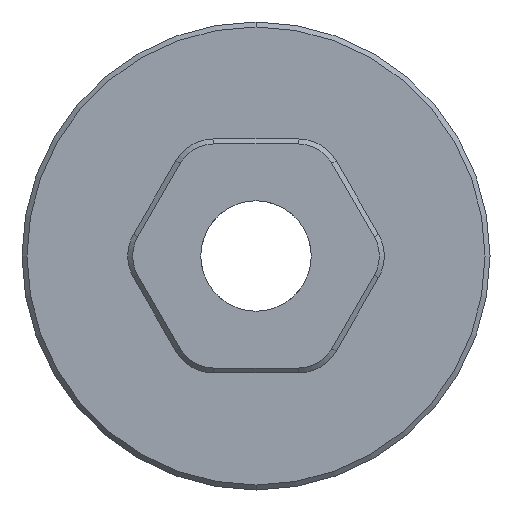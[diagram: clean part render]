
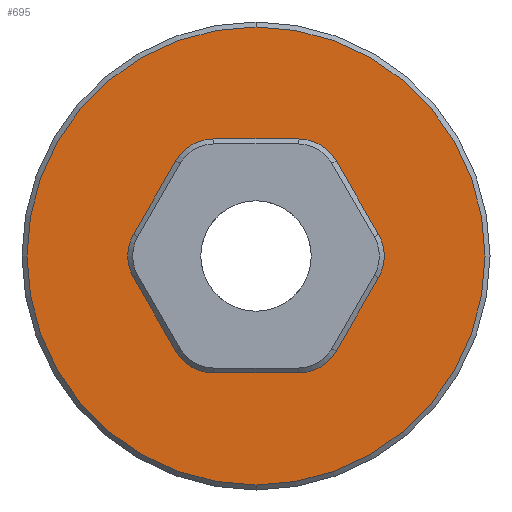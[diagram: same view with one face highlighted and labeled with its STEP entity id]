
A CAD part, front view. The second image highlights one B-rep face of the part: STEP entity #695.
In plain terms, the highlighted planar face has unit normal (0, -1, 0).
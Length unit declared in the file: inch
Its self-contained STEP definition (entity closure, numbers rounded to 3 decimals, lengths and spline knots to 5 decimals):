
#21 = VERTEX_POINT ( 'NONE', #2372 ) ;
#43 = EDGE_LOOP ( 'NONE', ( #3285, #1751 ) ) ;
#72 = VERTEX_POINT ( 'NONE', #2875 ) ;
#127 = CARTESIAN_POINT ( 'NONE',  ( -0.1963, 0., 0.035 ) ) ;
#128 = DIRECTION ( 'NONE',  ( 0., -1., 0. ) ) ;
#155 = EDGE_CURVE ( 'NONE', #72, #884, #1035, .T. ) ;
#170 = ORIENTED_EDGE ( 'NONE', *, *, #2082, .T. ) ;
#195 = VERTEX_POINT ( 'NONE', #1803 ) ;
#221 = DIRECTION ( 'NONE',  ( 0., 0., 1. ) ) ;
#224 = CIRCLE ( 'NONE', #1094, 0.07 ) ;
#271 = CARTESIAN_POINT ( 'NONE',  ( 0.1963, 0., -0.035 ) ) ;
#306 = CARTESIAN_POINT ( 'NONE',  ( -0.21651, 0., 0. ) ) ;
#343 = VERTEX_POINT ( 'NONE', #1946 ) ;
#381 = EDGE_CURVE ( 'NONE', #1011, #2108, #2062, .T. ) ;
#419 = CARTESIAN_POINT ( 'NONE',  ( -0.12846, 0., -0.1525 ) ) ;
#436 = VECTOR ( 'NONE', #1885, 39.37008 ) ;
#445 = CARTESIAN_POINT ( 'NONE',  ( -0.06784, 0., 0.1175 ) ) ;
#503 = ORIENTED_EDGE ( 'NONE', *, *, #1388, .F. ) ;
#556 = VERTEX_POINT ( 'NONE', #2723 ) ;
#575 = ORIENTED_EDGE ( 'NONE', *, *, #1848, .F. ) ;
#593 = DIRECTION ( 'NONE',  ( -1., 0., 0. ) ) ;
#627 = DIRECTION ( 'NONE',  ( 0., 1., 0. ) ) ;
#695 = ADVANCED_FACE ( 'NONE', ( #1276, #1784 ), #1484, .F. ) ;
#740 = VECTOR ( 'NONE', #1869, 39.37008 ) ;
#756 = EDGE_CURVE ( 'NONE', #1011, #1824, #1756, .T. ) ;
#837 = EDGE_CURVE ( 'NONE', #21, #3034, #2107, .T. ) ;
#864 = ORIENTED_EDGE ( 'NONE', *, *, #837, .F. ) ;
#878 = DIRECTION ( 'NONE',  ( 0., 1., 0. ) ) ;
#884 = VERTEX_POINT ( 'NONE', #2879 ) ;
#965 = DIRECTION ( 'NONE',  ( 0., 0., 1. ) ) ;
#970 = DIRECTION ( 'NONE',  ( 0., 0., 1. ) ) ;
#1005 = VERTEX_POINT ( 'NONE', #127 ) ;
#1011 = VERTEX_POINT ( 'NONE', #1162 ) ;
#1035 = CIRCLE ( 'NONE', #2499, 0.367 ) ;
#1036 = CARTESIAN_POINT ( 'NONE',  ( 0.06784, 0., 0.1875 ) ) ;
#1062 = VECTOR ( 'NONE', #1574, 39.37008 ) ;
#1063 = ORIENTED_EDGE ( 'NONE', *, *, #3329, .T. ) ;
#1094 = AXIS2_PLACEMENT_3D ( 'NONE', #445, #2509, #965 ) ;
#1128 = DIRECTION ( 'NONE',  ( 0., 0., 1. ) ) ;
#1138 = AXIS2_PLACEMENT_3D ( 'NONE', #1208, #2500, #970 ) ;
#1148 = EDGE_CURVE ( 'NONE', #343, #1312, #1209, .T. ) ;
#1162 = CARTESIAN_POINT ( 'NONE',  ( -0.06784, 0., -0.1875 ) ) ;
#1182 = CARTESIAN_POINT ( 'NONE',  ( 0.13568, 0., 0. ) ) ;
#1208 = CARTESIAN_POINT ( 'NONE',  ( 0., 0., 0. ) ) ;
#1209 = LINE ( 'NONE', #2501, #2354 ) ;
#1232 = DIRECTION ( 'NONE',  ( 0., 1., 0. ) ) ;
#1251 = ORIENTED_EDGE ( 'NONE', *, *, #381, .T. ) ;
#1276 = FACE_BOUND ( 'NONE', #2841, .T. ) ;
#1297 = CARTESIAN_POINT ( 'NONE',  ( 0.10825, 0., 0.1875 ) ) ;
#1302 = AXIS2_PLACEMENT_3D ( 'NONE', #3297, #2570, #1855 ) ;
#1312 = VERTEX_POINT ( 'NONE', #271 ) ;
#1340 = AXIS2_PLACEMENT_3D ( 'NONE', #1511, #1718, #221 ) ;
#1345 = VERTEX_POINT ( 'NONE', #1036 ) ;
#1388 = EDGE_CURVE ( 'NONE', #195, #2108, #3096, .T. ) ;
#1422 = CIRCLE ( 'NONE', #1578, 0.07 ) ;
#1460 = DIRECTION ( 'NONE',  ( 0., 1., 0. ) ) ;
#1484 = PLANE ( 'NONE',  #2147 ) ;
#1511 = CARTESIAN_POINT ( 'NONE',  ( 0.06784, 0., 0.1175 ) ) ;
#1555 = ORIENTED_EDGE ( 'NONE', *, *, #1148, .F. ) ;
#1574 = DIRECTION ( 'NONE',  ( 0.5, 0., -0.866 ) ) ;
#1578 = AXIS2_PLACEMENT_3D ( 'NONE', #1182, #878, #1915 ) ;
#1582 = EDGE_CURVE ( 'NONE', #21, #1312, #1422, .T. ) ;
#1590 = CIRCLE ( 'NONE', #2943, 0.07 ) ;
#1621 = CARTESIAN_POINT ( 'NONE',  ( -0.06784, 0., -0.1175 ) ) ;
#1673 = DIRECTION ( 'NONE',  ( 0., 0., 1. ) ) ;
#1717 = CARTESIAN_POINT ( 'NONE',  ( 0.06784, 0., -0.1175 ) ) ;
#1718 = DIRECTION ( 'NONE',  ( 0., 1., 0. ) ) ;
#1750 = DIRECTION ( 'NONE',  ( 0.5, 0., 0.866 ) ) ;
#1751 = ORIENTED_EDGE ( 'NONE', *, *, #155, .T. ) ;
#1754 = AXIS2_PLACEMENT_3D ( 'NONE', #1621, #627, #1128 ) ;
#1756 = LINE ( 'NONE', #2039, #3164 ) ;
#1784 = FACE_OUTER_BOUND ( 'NONE', #43, .T. ) ;
#1803 = CARTESIAN_POINT ( 'NONE',  ( -0.1963, 0., -0.035 ) ) ;
#1824 = VERTEX_POINT ( 'NONE', #2157 ) ;
#1848 = EDGE_CURVE ( 'NONE', #556, #1005, #3207, .T. ) ;
#1855 = DIRECTION ( 'NONE',  ( 0., 0., 1. ) ) ;
#1858 = LINE ( 'NONE', #1297, #2555 ) ;
#1869 = DIRECTION ( 'NONE',  ( -0.5, 0., 0.866 ) ) ;
#1885 = DIRECTION ( 'NONE',  ( -0.5, 0., -0.866 ) ) ;
#1915 = DIRECTION ( 'NONE',  ( 0., 0., 1. ) ) ;
#1946 = CARTESIAN_POINT ( 'NONE',  ( 0.12846, 0., -0.1525 ) ) ;
#1984 = CARTESIAN_POINT ( 'NONE',  ( -0.06784, 0., 0.1875 ) ) ;
#2039 = CARTESIAN_POINT ( 'NONE',  ( -0.10825, 0., -0.1875 ) ) ;
#2054 = EDGE_CURVE ( 'NONE', #884, #72, #2589, .T. ) ;
#2062 = CIRCLE ( 'NONE', #1754, 0.07 ) ;
#2065 = CIRCLE ( 'NONE', #1302, 0.07 ) ;
#2082 = EDGE_CURVE ( 'NONE', #1345, #3034, #3028, .T. ) ;
#2107 = LINE ( 'NONE', #2343, #740 ) ;
#2108 = VERTEX_POINT ( 'NONE', #419 ) ;
#2147 = AXIS2_PLACEMENT_3D ( 'NONE', #2534, #1232, #3342 ) ;
#2157 = CARTESIAN_POINT ( 'NONE',  ( 0.06784, 0., -0.1875 ) ) ;
#2310 = ORIENTED_EDGE ( 'NONE', *, *, #1582, .T. ) ;
#2343 = CARTESIAN_POINT ( 'NONE',  ( 0.21651, 0., 0. ) ) ;
#2349 = EDGE_CURVE ( 'NONE', #1345, #3290, #1858, .T. ) ;
#2354 = VECTOR ( 'NONE', #1750, 39.37008 ) ;
#2372 = CARTESIAN_POINT ( 'NONE',  ( 0.1963, 0., 0.035 ) ) ;
#2466 = CARTESIAN_POINT ( 'NONE',  ( -0.10825, 0., 0.1875 ) ) ;
#2499 = AXIS2_PLACEMENT_3D ( 'NONE', #3189, #128, #1673 ) ;
#2500 = DIRECTION ( 'NONE',  ( 0., -1., 0. ) ) ;
#2501 = CARTESIAN_POINT ( 'NONE',  ( 0.10825, 0., -0.1875 ) ) ;
#2509 = DIRECTION ( 'NONE',  ( 0., 1., 0. ) ) ;
#2511 = DIRECTION ( 'NONE',  ( 0., 0., 1. ) ) ;
#2534 = CARTESIAN_POINT ( 'NONE',  ( 0., 0., 0. ) ) ;
#2539 = EDGE_CURVE ( 'NONE', #556, #3290, #224, .T. ) ;
#2550 = ORIENTED_EDGE ( 'NONE', *, *, #2552, .T. ) ;
#2552 = EDGE_CURVE ( 'NONE', #195, #1005, #2065, .T. ) ;
#2555 = VECTOR ( 'NONE', #593, 39.37008 ) ;
#2570 = DIRECTION ( 'NONE',  ( 0., 1., 0. ) ) ;
#2589 = CIRCLE ( 'NONE', #1138, 0.367 ) ;
#2723 = CARTESIAN_POINT ( 'NONE',  ( -0.12846, 0., 0.1525 ) ) ;
#2799 = DIRECTION ( 'NONE',  ( 1., 0., 0. ) ) ;
#2821 = ORIENTED_EDGE ( 'NONE', *, *, #2539, .T. ) ;
#2824 = CARTESIAN_POINT ( 'NONE',  ( 0.12846, 0., 0.1525 ) ) ;
#2841 = EDGE_LOOP ( 'NONE', ( #3043, #1251, #503, #2550, #575, #2821, #3080, #170, #864, #2310, #1555, #1063 ) ) ;
#2875 = CARTESIAN_POINT ( 'NONE',  ( 0., 0., -0.367 ) ) ;
#2879 = CARTESIAN_POINT ( 'NONE',  ( 0., 0., 0.367 ) ) ;
#2943 = AXIS2_PLACEMENT_3D ( 'NONE', #1717, #1460, #2511 ) ;
#3028 = CIRCLE ( 'NONE', #1340, 0.07 ) ;
#3034 = VERTEX_POINT ( 'NONE', #2824 ) ;
#3043 = ORIENTED_EDGE ( 'NONE', *, *, #756, .F. ) ;
#3080 = ORIENTED_EDGE ( 'NONE', *, *, #2349, .F. ) ;
#3096 = LINE ( 'NONE', #306, #1062 ) ;
#3164 = VECTOR ( 'NONE', #2799, 39.37008 ) ;
#3189 = CARTESIAN_POINT ( 'NONE',  ( 0., 0., 0. ) ) ;
#3207 = LINE ( 'NONE', #2466, #436 ) ;
#3285 = ORIENTED_EDGE ( 'NONE', *, *, #2054, .T. ) ;
#3290 = VERTEX_POINT ( 'NONE', #1984 ) ;
#3297 = CARTESIAN_POINT ( 'NONE',  ( -0.13568, 0., 0. ) ) ;
#3329 = EDGE_CURVE ( 'NONE', #343, #1824, #1590, .T. ) ;
#3342 = DIRECTION ( 'NONE',  ( 1., 0., 0. ) ) ;
